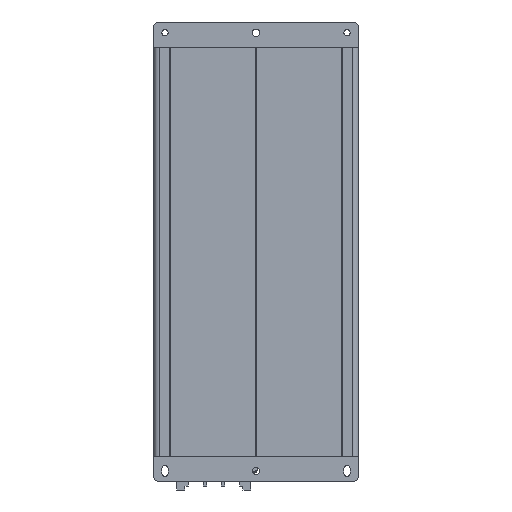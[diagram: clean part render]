
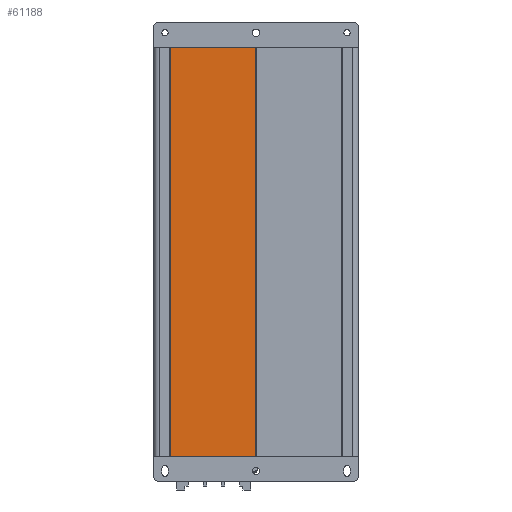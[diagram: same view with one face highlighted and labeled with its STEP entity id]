
A CAD part, front view. The second image highlights one B-rep face of the part: STEP entity #61188.
In plain terms, the highlighted planar face has unit normal (0, -1, 0).
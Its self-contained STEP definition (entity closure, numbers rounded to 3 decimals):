
#1312=PLANE('',#65499);
#4419=LINE('',#94125,#10353);
#4421=LINE('',#94129,#10355);
#4422=LINE('',#94131,#10356);
#4423=LINE('',#94132,#10357);
#10353=VECTOR('',#74897,0.394);
#10355=VECTOR('',#74901,0.394);
#10356=VECTOR('',#74902,0.394);
#10357=VECTOR('',#74903,0.394);
#16529=FACE_OUTER_BOUND('',#19880,.T.);
#19880=EDGE_LOOP('',(#45013,#45014,#45015,#45016));
#27449=VERTEX_POINT('',#94122);
#27450=VERTEX_POINT('',#94124);
#27451=VERTEX_POINT('',#94128);
#27452=VERTEX_POINT('',#94130);
#34096=EDGE_CURVE('',#27449,#27450,#4419,.T.);
#34098=EDGE_CURVE('',#27449,#27451,#4421,.T.);
#34099=EDGE_CURVE('',#27451,#27452,#4422,.T.);
#34100=EDGE_CURVE('',#27450,#27452,#4423,.T.);
#45013=ORIENTED_EDGE('',*,*,#34098,.T.);
#45014=ORIENTED_EDGE('',*,*,#34099,.T.);
#45015=ORIENTED_EDGE('',*,*,#34100,.F.);
#45016=ORIENTED_EDGE('',*,*,#34096,.F.);
#61188=ADVANCED_FACE('',(#16529),#1312,.T.);
#65499=AXIS2_PLACEMENT_3D('',#94127,#74899,#74900);
#74897=DIRECTION('',(0.,0.,1.));
#74899=DIRECTION('center_axis',(0.,-1.,0.));
#74900=DIRECTION('ref_axis',(1.,0.,0.));
#74901=DIRECTION('',(1.,0.,0.));
#74902=DIRECTION('',(0.,0.,1.));
#74903=DIRECTION('',(1.,0.,0.));
#94122=CARTESIAN_POINT('',(-2.901,-1.724,-7.087));
#94124=CARTESIAN_POINT('',(-2.901,-1.724,7.087));
#94125=CARTESIAN_POINT('',(-2.901,-1.724,-7.087));
#94127=CARTESIAN_POINT('Origin',(-2.901,-1.724,-7.087));
#94128=CARTESIAN_POINT('',(0.059,-1.724,-7.087));
#94129=CARTESIAN_POINT('',(-2.901,-1.724,-7.087));
#94130=CARTESIAN_POINT('',(0.059,-1.724,7.087));
#94131=CARTESIAN_POINT('',(0.059,-1.724,-7.087));
#94132=CARTESIAN_POINT('',(-2.901,-1.724,7.087));
